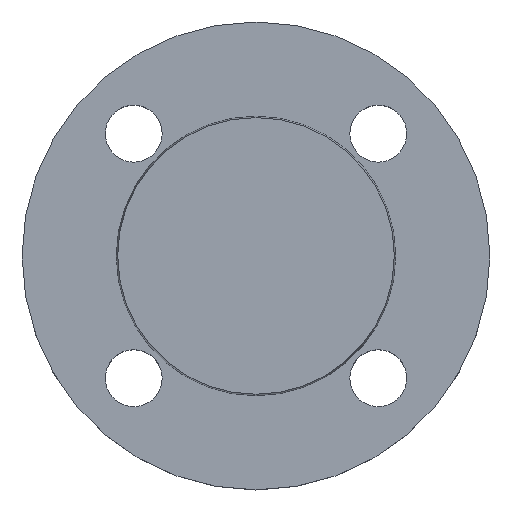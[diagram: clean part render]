
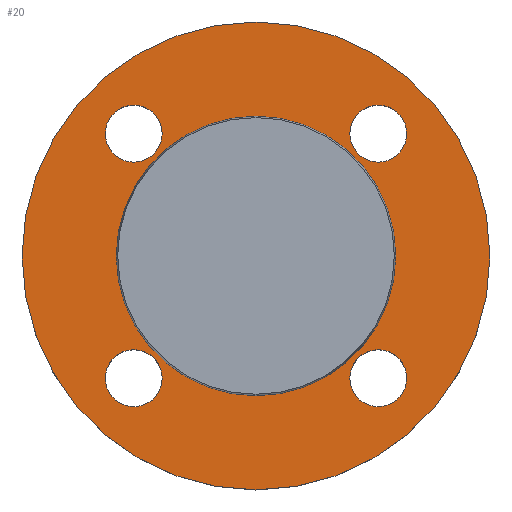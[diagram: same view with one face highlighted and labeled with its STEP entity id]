
A CAD part, top view. The second image highlights one B-rep face of the part: STEP entity #20.
In plain terms, the highlighted planar face has unit normal (0, 0, 1).
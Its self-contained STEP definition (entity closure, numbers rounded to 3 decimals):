
#4 = AXIS2_PLACEMENT_3D ( 'NONE', #208, #209, #211 ) ;
#6 = CIRCLE ( 'NONE', #170, 34.353 ) ;
#12 = AXIS2_PLACEMENT_3D ( 'NONE', #530, #536, #537 ) ;
#19 = CIRCLE ( 'NONE', #4, 57.5 ) ;
#20 = ADVANCED_FACE ( 'NONE', ( #473, #474, #475, #476, #477, #478 ), #479, .T. ) ;
#33 = CIRCLE ( 'NONE', #212, 57.5 ) ;
#34 = CARTESIAN_POINT ( 'NONE',  ( -57.5, 0., -2. ) ) ;
#45 = AXIS2_PLACEMENT_3D ( 'NONE', #585, #586, #587 ) ;
#46 = EDGE_CURVE ( 'NONE', #340, #437, #139, .T. ) ;
#54 = DIRECTION ( 'NONE',  ( 0., 0., -1. ) ) ;
#59 = CARTESIAN_POINT ( 'NONE',  ( 30.052, -30.052, -2. ) ) ;
#64 = DIRECTION ( 'NONE',  ( 1., 0., 0. ) ) ;
#78 = CIRCLE ( 'NONE', #280, 7. ) ;
#81 = CIRCLE ( 'NONE', #122, 7. ) ;
#91 = AXIS2_PLACEMENT_3D ( 'NONE', #596, #597, #598 ) ;
#92 = CIRCLE ( 'NONE', #45, 34.353 ) ;
#101 = EDGE_CURVE ( 'NONE', #167, #458, #164, .T. ) ;
#104 = CIRCLE ( 'NONE', #91, 7. ) ;
#111 = EDGE_CURVE ( 'NONE', #154, #216, #6, .T. ) ;
#114 = EDGE_CURVE ( 'NONE', #310, #315, #33, .T. ) ;
#122 = AXIS2_PLACEMENT_3D ( 'NONE', #639, #640, #641 ) ;
#134 = EDGE_CURVE ( 'NONE', #228, #148, #78, .T. ) ;
#139 = CIRCLE ( 'NONE', #429, 7. ) ;
#148 = VERTEX_POINT ( 'NONE', #573 ) ;
#149 = VERTEX_POINT ( 'NONE', #577 ) ;
#154 = VERTEX_POINT ( 'NONE', #579 ) ;
#156 = CIRCLE ( 'NONE', #175, 7. ) ;
#164 = CIRCLE ( 'NONE', #12, 7. ) ;
#166 = EDGE_CURVE ( 'NONE', #216, #154, #92, .T. ) ;
#167 = VERTEX_POINT ( 'NONE', #588 ) ;
#170 = AXIS2_PLACEMENT_3D ( 'NONE', #549, #550, #551 ) ;
#175 = AXIS2_PLACEMENT_3D ( 'NONE', #178, #181, #182 ) ;
#177 = CARTESIAN_POINT ( 'NONE',  ( -23.052, 30.052, -2. ) ) ;
#178 = CARTESIAN_POINT ( 'NONE',  ( 30.052, 30.052, -2. ) ) ;
#181 = DIRECTION ( 'NONE',  ( 0., 0., -1. ) ) ;
#182 = DIRECTION ( 'NONE',  ( 1., 0., 0. ) ) ;
#201 = EDGE_CURVE ( 'NONE', #437, #340, #104, .T. ) ;
#205 = CIRCLE ( 'NONE', #225, 7. ) ;
#208 = CARTESIAN_POINT ( 'NONE',  ( 0., 0., -2. ) ) ;
#209 = DIRECTION ( 'NONE',  ( 0., 0., -1. ) ) ;
#211 = DIRECTION ( 'NONE',  ( -1., 0., 0. ) ) ;
#212 = AXIS2_PLACEMENT_3D ( 'NONE', #553, #554, #556 ) ;
#216 = VERTEX_POINT ( 'NONE', #599 ) ;
#225 = AXIS2_PLACEMENT_3D ( 'NONE', #645, #646, #647 ) ;
#227 = CARTESIAN_POINT ( 'NONE',  ( -37.052, 30.052, -2. ) ) ;
#228 = VERTEX_POINT ( 'NONE', #607 ) ;
#242 = CARTESIAN_POINT ( 'NONE',  ( -37.052, -30.052, -2. ) ) ;
#258 = AXIS2_PLACEMENT_3D ( 'NONE', #480, #481, #482 ) ;
#264 = AXIS2_PLACEMENT_3D ( 'NONE', #59, #54, #64 ) ;
#269 = CIRCLE ( 'NONE', #264, 7. ) ;
#273 = CARTESIAN_POINT ( 'NONE',  ( 23.052, 30.052, -2. ) ) ;
#280 = AXIS2_PLACEMENT_3D ( 'NONE', #571, #572, #575 ) ;
#281 = EDGE_CURVE ( 'NONE', #149, #451, #81, .T. ) ;
#294 = EDGE_CURVE ( 'NONE', #451, #149, #205, .T. ) ;
#310 = VERTEX_POINT ( 'NONE', #574 ) ;
#315 = VERTEX_POINT ( 'NONE', #34 ) ;
#340 = VERTEX_POINT ( 'NONE', #177 ) ;
#343 = EDGE_CURVE ( 'NONE', #458, #167, #156, .T. ) ;
#351 = ORIENTED_EDGE ( 'NONE', *, *, #134, .T. ) ;
#353 = ORIENTED_EDGE ( 'NONE', *, *, #552, .T. ) ;
#354 = ORIENTED_EDGE ( 'NONE', *, *, #281, .T. ) ;
#355 = ORIENTED_EDGE ( 'NONE', *, *, #294, .T. ) ;
#356 = ORIENTED_EDGE ( 'NONE', *, *, #46, .T. ) ;
#357 = ORIENTED_EDGE ( 'NONE', *, *, #201, .T. ) ;
#359 = ORIENTED_EDGE ( 'NONE', *, *, #101, .T. ) ;
#361 = ORIENTED_EDGE ( 'NONE', *, *, #343, .T. ) ;
#362 = ORIENTED_EDGE ( 'NONE', *, *, #111, .T. ) ;
#363 = ORIENTED_EDGE ( 'NONE', *, *, #166, .T. ) ;
#364 = ORIENTED_EDGE ( 'NONE', *, *, #114, .F. ) ;
#365 = ORIENTED_EDGE ( 'NONE', *, *, #402, .F. ) ;
#402 = EDGE_CURVE ( 'NONE', #315, #310, #19, .T. ) ;
#429 = AXIS2_PLACEMENT_3D ( 'NONE', #507, #508, #509 ) ;
#436 = EDGE_LOOP ( 'NONE', ( #354, #355 ) ) ;
#437 = VERTEX_POINT ( 'NONE', #227 ) ;
#441 = EDGE_LOOP ( 'NONE', ( #359, #361 ) ) ;
#445 = EDGE_LOOP ( 'NONE', ( #364, #365 ) ) ;
#446 = EDGE_LOOP ( 'NONE', ( #362, #363 ) ) ;
#447 = EDGE_LOOP ( 'NONE', ( #356, #357 ) ) ;
#451 = VERTEX_POINT ( 'NONE', #242 ) ;
#455 = EDGE_LOOP ( 'NONE', ( #351, #353 ) ) ;
#458 = VERTEX_POINT ( 'NONE', #273 ) ;
#473 = FACE_BOUND ( 'NONE', #455, .T. ) ;
#474 = FACE_BOUND ( 'NONE', #436, .T. ) ;
#475 = FACE_BOUND ( 'NONE', #447, .T. ) ;
#476 = FACE_BOUND ( 'NONE', #441, .T. ) ;
#477 = FACE_BOUND ( 'NONE', #446, .T. ) ;
#478 = FACE_OUTER_BOUND ( 'NONE', #445, .T. ) ;
#479 = PLANE ( 'NONE',  #258 ) ;
#480 = CARTESIAN_POINT ( 'NONE',  ( 34.353, 0., -2. ) ) ;
#481 = DIRECTION ( 'NONE',  ( 0., 0., 1. ) ) ;
#482 = DIRECTION ( 'NONE',  ( 1., 0., 0. ) ) ;
#507 = CARTESIAN_POINT ( 'NONE',  ( -30.052, 30.052, -2. ) ) ;
#508 = DIRECTION ( 'NONE',  ( 0., 0., -1. ) ) ;
#509 = DIRECTION ( 'NONE',  ( 1., 0., 0. ) ) ;
#530 = CARTESIAN_POINT ( 'NONE',  ( 30.052, 30.052, -2. ) ) ;
#536 = DIRECTION ( 'NONE',  ( 0., 0., -1. ) ) ;
#537 = DIRECTION ( 'NONE',  ( 1., 0., 0. ) ) ;
#549 = CARTESIAN_POINT ( 'NONE',  ( 0., 0., -2. ) ) ;
#550 = DIRECTION ( 'NONE',  ( 0., 0., -1. ) ) ;
#551 = DIRECTION ( 'NONE',  ( -1., 0., 0. ) ) ;
#552 = EDGE_CURVE ( 'NONE', #148, #228, #269, .T. ) ;
#553 = CARTESIAN_POINT ( 'NONE',  ( 0., 0., -2. ) ) ;
#554 = DIRECTION ( 'NONE',  ( 0., 0., -1. ) ) ;
#556 = DIRECTION ( 'NONE',  ( -1., 0., 0. ) ) ;
#571 = CARTESIAN_POINT ( 'NONE',  ( 30.052, -30.052, -2. ) ) ;
#572 = DIRECTION ( 'NONE',  ( 0., 0., -1. ) ) ;
#573 = CARTESIAN_POINT ( 'NONE',  ( 23.052, -30.052, -2. ) ) ;
#574 = CARTESIAN_POINT ( 'NONE',  ( 57.5, 0., -2. ) ) ;
#575 = DIRECTION ( 'NONE',  ( 1., 0., 0. ) ) ;
#577 = CARTESIAN_POINT ( 'NONE',  ( -23.052, -30.052, -2. ) ) ;
#579 = CARTESIAN_POINT ( 'NONE',  ( -34.353, 0., -2. ) ) ;
#585 = CARTESIAN_POINT ( 'NONE',  ( 0., 0., -2. ) ) ;
#586 = DIRECTION ( 'NONE',  ( 0., 0., -1. ) ) ;
#587 = DIRECTION ( 'NONE',  ( -1., 0., 0. ) ) ;
#588 = CARTESIAN_POINT ( 'NONE',  ( 37.052, 30.052, -2. ) ) ;
#596 = CARTESIAN_POINT ( 'NONE',  ( -30.052, 30.052, -2. ) ) ;
#597 = DIRECTION ( 'NONE',  ( 0., 0., -1. ) ) ;
#598 = DIRECTION ( 'NONE',  ( 1., 0., 0. ) ) ;
#599 = CARTESIAN_POINT ( 'NONE',  ( 34.353, 0., -2. ) ) ;
#607 = CARTESIAN_POINT ( 'NONE',  ( 37.052, -30.052, -2. ) ) ;
#639 = CARTESIAN_POINT ( 'NONE',  ( -30.052, -30.052, -2. ) ) ;
#640 = DIRECTION ( 'NONE',  ( 0., 0., -1. ) ) ;
#641 = DIRECTION ( 'NONE',  ( 1., 0., 0. ) ) ;
#645 = CARTESIAN_POINT ( 'NONE',  ( -30.052, -30.052, -2. ) ) ;
#646 = DIRECTION ( 'NONE',  ( 0., 0., -1. ) ) ;
#647 = DIRECTION ( 'NONE',  ( 1., 0., 0. ) ) ;
